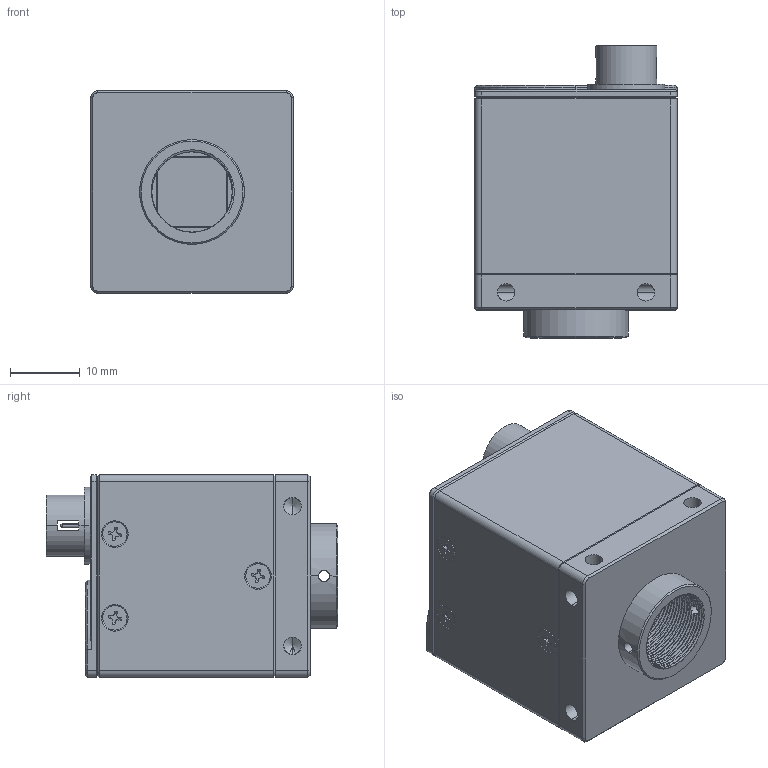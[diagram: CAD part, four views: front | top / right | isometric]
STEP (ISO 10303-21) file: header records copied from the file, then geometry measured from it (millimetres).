
FILE_DESCRIPTION (( 'STEP AP203' ), '1' );
FILE_NAME ('U3V-M12.STEP', '2023-04-15T06:57:35', ( '' ), ( '' ), 'SwSTEP 2.0', 'SolidWorks 2022', '' );
FILE_SCHEMA (( 'CONFIG_CONTROL_DESIGN' ));
Products named in the file (1): U3V-M12
Bounding box: 29 x 41.8 x 29 mm (x, y, z)
Volume: 15984.3 mm3; surface area: 20832.8 mm2
Topology: 32 solids, 32 shells, 1322 faces, 3420 edges, 2169 vertices
Faces by surface type: cylinder 530, plane 489, cone 252, bspline 51
Entity records: 50750 total; most frequent: CARTESIAN_POINT 19517, ORIENTED_EDGE 6740, DIRECTION 6120, EDGE_CURVE 3370, AXIS2_PLACEMENT_3D 2241, VERTEX_POINT 2169, LINE 1638, VECTOR 1638
